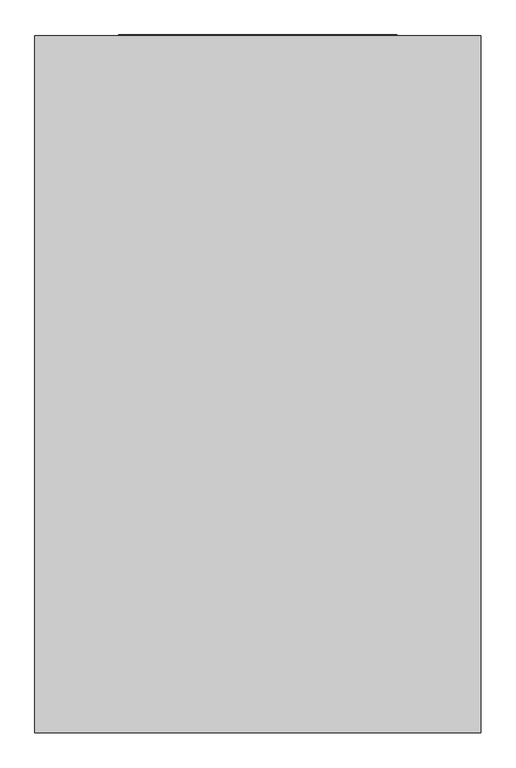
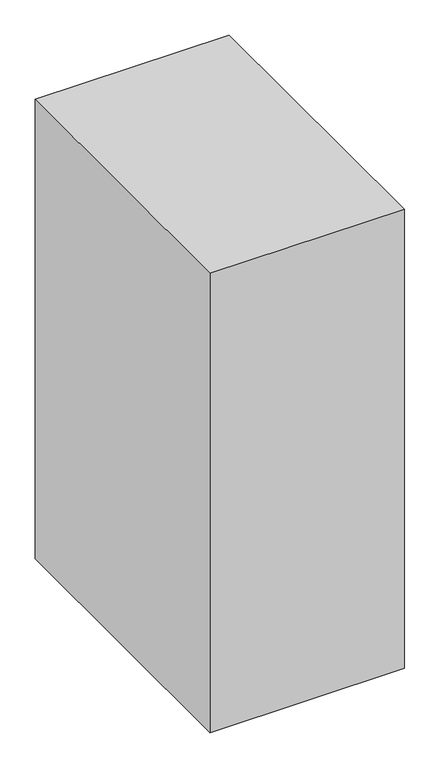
"""IFC4 building model written with IfcOpenShell, lengths in millimetres: furniture geometry, BIMHealth-Chair_High_Back-LOD2A-v1 : BIMHealth-Chair_High_Back-LOD2A-v1."""

from ifc_helpers import new_model, si_unit, point, frame, frame_2d, origin, origin_with_axes, place, context, project, spatial, polyline, circle_curve, trimmed, segment, composite_curve, outline, extrude, source, transform, mapped, element, save


def furniture_785aeefc(model_context):
    return source(origin(), model_context, "Body", "SweptSolid", [
        extrude(outline(composite_curve([segment(trimmed(circle_curve(frame_2d((637.5, -7.5)), 12.5), [point((650.0, -7.5))], [point((625.0, -7.5))], False, "CARTESIAN"), True, "CONTINUOUS"), segment(polyline([(625.0, -7.5), (625.0, 32.5)]), True, "CONTINUOUS"), segment(trimmed(circle_curve(frame_2d((637.5, 32.5)), 12.5), [point((625.0, 32.5))], [point((650.0, 32.5))], False, "CARTESIAN"), True, "CONTINUOUS"), segment(polyline([(650.0, 32.5), (650.0, -7.5)]), True, "CONTINUOUS")], self_intersect=False)), frame((0.0, -690.0, 0.0), z_axis=(0.0, 1.0, 0.0), x_axis=(0.0, 0.0, 1.0)), (0.0, 0.0, 1.0), 645.0),
        extrude(outline(composite_curve([segment(polyline([(-98.5029701, 1219.8587572), (1.3912185, 1211.11914)]), True, "CONTINUOUS"), segment(trimmed(circle_curve(frame_2d((4641.3392615, 451.69162)), 4701.6856551), [point((1.3912185, 1211.11914))], [point((-59.9907404, 509.5207891))], True, "CARTESIAN"), True, "CONTINUOUS"), segment(polyline([(-59.9907404, 509.5207891), (-159.884929, 518.2604062)]), True, "CONTINUOUS"), segment(trimmed(circle_curve(frame_2d((4641.3392615, 451.69162)), 4801.6856551), [point((-159.884929, 518.2604062))], [point((-98.5029701, 1219.8587572))], False, "CARTESIAN"), True, "CONTINUOUS")], self_intersect=False)), frame((45.0, 0.0, 0.0), z_axis=(1.0, 0.0, 0.0), x_axis=(0.0, 1.0, 0.0)), (0.0, 0.0, 1.0), 500.0),
        extrude(outline(polyline([(-601.6741923, 407.5), (-109.2302136, 407.5), (-106.6111559, 332.5), (-604.29325, 332.5), (-601.6741923, 407.5)])), frame((5.0, 0.0, 0.0), z_axis=(1.0, 0.0, 0.0), x_axis=(0.0, 1.0, 0.0)), (0.0, 0.0, 1.0), 15.0),
        extrude(outline(polyline([(0.0, 0.0), (0.0, -25.0), (-50.0, -25.0), (-50.0, 0.0), (0.0, 0.0)])), frame((565.0, -45.0304586, 1.7449748), z_axis=(0.0, -0.034899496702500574, 0.9993908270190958), x_axis=(0.0, 0.9993908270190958, 0.034899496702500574)), (0.0, 0.0, 1.0), 625.0),
        extrude(outline(polyline([(25.0, 0.0), (25.0, -50.0), (0.0, -50.0), (0.0, 0.0), (25.0, 0.0)])), frame((590.0, -665.9343136, 0.0163085), z_axis=(0.0, 0.034899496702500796, 0.9993908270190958), x_axis=(-1.0, 0.0, 0.0)), (0.0, 0.0, 1.0), 625.0),
        extrude(outline(composite_curve([segment(polyline([(650.0, 597.5), (650.0, 557.5)]), True, "CONTINUOUS"), segment(trimmed(circle_curve(frame_2d((637.5, 557.5)), 12.5), [point((650.0, 557.5))], [point((625.0, 557.5))], False, "CARTESIAN"), True, "CONTINUOUS"), segment(polyline([(625.0, 557.5), (625.0, 597.5)]), True, "CONTINUOUS"), segment(trimmed(circle_curve(frame_2d((637.5, 597.5)), 12.5), [point((625.0, 597.5))], [point((650.0, 597.5))], False, "CARTESIAN"), True, "CONTINUOUS")], self_intersect=False)), frame((0.0, -690.0, 0.0), z_axis=(0.0, 1.0, 0.0), x_axis=(0.0, 0.0, 1.0)), (0.0, 0.0, 1.0), 645.0),
        extrude(outline(polyline([(25.0, -75.8291124), (565.0, -75.8291124), (565.0, -90.8291124), (25.0, -90.8291124), (25.0, -75.8291124)])), frame((0.0, 0.0, 295.0), z_axis=(0.0, 0.0, 1.0), x_axis=(1.0, 0.0, 0.0)), (0.0, 0.0, 1.0), 75.0),
        extrude(outline(polyline([(565.0, -634.7682396), (25.0, -634.7682396), (25.0, -619.7682396), (565.0, -619.7682396), (565.0, -634.7682396)])), frame((0.0, 0.0, 295.0), z_axis=(0.0, 0.0, 1.0), x_axis=(1.0, 0.0, 0.0)), (0.0, 0.0, 1.0), 75.0),
        extrude(outline(composite_curve([segment(polyline([(-55.0, 370.0), (-690.0, 370.0), (-690.0, 469.7725044)]), True, "CONTINUOUS"), segment(trimmed(circle_curve(frame_2d((-658.1624672, 469.7725044)), 31.8375328), [point((-690.0, 469.7725044))], [point((-656.4950517, 501.5663437))], False, "CARTESIAN"), True, "CONTINUOUS"), segment(polyline([(-656.4950517, 501.5663437), (-70.0005563, 470.8078695)]), True, "CONTINUOUS"), segment(trimmed(circle_curve(frame_2d((-70.8295939, 455.0)), 15.8295939), [point((-70.0005563, 470.8078695))], [point((-55.0, 455.0))], False, "CARTESIAN"), True, "CONTINUOUS"), segment(polyline([(-55.0, 455.0), (-55.0, 370.0)]), True, "CONTINUOUS")], self_intersect=False)), frame((45.0, 0.0, 0.0), z_axis=(1.0, 0.0, 0.0), x_axis=(0.0, 1.0, 0.0)), (0.0, 0.0, 1.0), 500.0),
        extrude(outline(polyline([(-601.6741923, 407.5), (-109.2302136, 407.5), (-106.6111559, 332.5), (-604.29325, 332.5), (-601.6741923, 407.5)])), frame((570.0, 0.0, 0.0), z_axis=(1.0, 0.0, 0.0), x_axis=(0.0, 1.0, 0.0)), (0.0, 0.0, 1.0), 15.0),
        extrude(outline(polyline([(25.0, 0.0), (25.0, -50.0), (0.0, -50.0), (0.0, 0.0), (25.0, 0.0)])), frame((0.0, -45.0304586, 1.7449748), z_axis=(0.0, -0.034899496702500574, 0.9993908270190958), x_axis=(1.0, 0.0, 0.0)), (0.0, 0.0, 1.0), 625.0),
        extrude(outline(polyline([(0.0, 0.0), (0.0, -25.0), (-50.0, -25.0), (-50.0, 0.0), (0.0, 0.0)])), frame((25.0, -665.9343136, 0.0163085), z_axis=(0.0, 0.034899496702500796, 0.9993908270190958), x_axis=(0.0, -0.9993908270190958, 0.034899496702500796)), (0.0, 0.0, 1.0), 625.0),
        extrude(outline(polyline([(695.0, 0.0), (695.0, -1250.0), (-105.0, -1250.0), (-105.0, 0.0), (695.0, 0.0)])), origin_with_axes(), (0.0, 0.0, 1.0), 2000.0),
    ])


if __name__ == "__main__":
    model = new_model("IFC4")
    model_context = context("Model", 3, world=origin())
    ifc_project = project(units=[si_unit("LENGTHUNIT", "METRE", prefix="MILLI")], contexts=[model_context])
    site = spatial("IfcSite", under=ifc_project)
    building = spatial("IfcBuilding", under=site)
    placement = place(None, origin())
    furniture_shape = furniture_785aeefc(model_context)
    element("IfcFurniture", 1, ObjectType="BIMHealth-Chair_High_Back-LOD2A-v1 : BIMHealth-Chair_High_Back-LOD2A-v1", at=placement, inside=building, context=model_context, shape_type="MappedRepresentation", body=[
        mapped(furniture_shape, transform((0.0, 0.0, 0.0), x_axis=(1.0, 0.0, 0.0), y_axis=(0.0, 1.0, 0.0), z_axis=(0.0, 0.0, 1.0))),
    ])
    save(model, "model.ifc")
